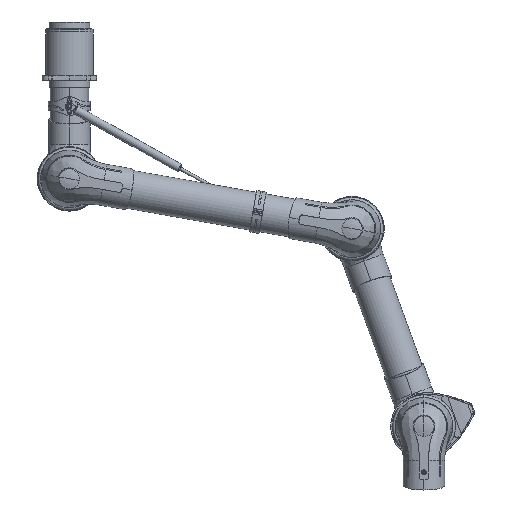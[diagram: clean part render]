
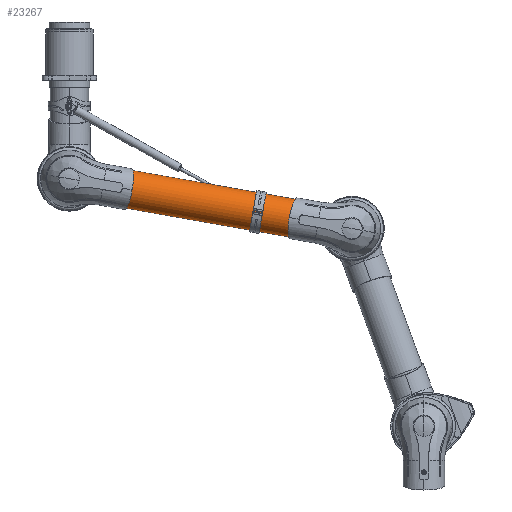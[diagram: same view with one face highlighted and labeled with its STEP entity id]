
A CAD part, top view. The second image highlights one B-rep face of the part: STEP entity #23267.
In plain terms, the highlighted cylindrical face has radius 50 mm (diameter 100 mm), a partial arc.
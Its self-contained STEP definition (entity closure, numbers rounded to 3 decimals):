
#23180=CARTESIAN_POINT('',(0.,0.,0.));
#23181=DIRECTION('',(1.,0.,0.));
#23182=DIRECTION('',(0.,1.,0.));
#23183=AXIS2_PLACEMENT_3D('',#23180,#23181,#23182);
#23188=DIRECTION('',(-1.,0.,0.));
#23189=VECTOR('',#23188,570.);
#23190=CARTESIAN_POINT('',(0.,50.,0.));
#23191=LINE('',#23190,#23189);
#23195=DIRECTION('',(-1.,0.,0.));
#23196=VECTOR('',#23195,570.);
#23197=CARTESIAN_POINT('',(0.,-50.,0.));
#23198=LINE('',#23197,#23196);
#23218=CARTESIAN_POINT('',(-570.,0.,0.));
#23219=DIRECTION('',(1.,0.,0.));
#23220=DIRECTION('',(0.,1.,0.));
#23221=AXIS2_PLACEMENT_3D('',#23218,#23219,#23220);
#23226=CARTESIAN_POINT('',(0.,50.,0.));
#23227=CARTESIAN_POINT('',(-570.,50.,0.));
#23228=VERTEX_POINT('',#23226);
#23229=VERTEX_POINT('',#23227);
#23230=CARTESIAN_POINT('',(0.,-50.,0.));
#23231=CARTESIAN_POINT('',(-570.,-50.,0.));
#23232=VERTEX_POINT('',#23230);
#23233=VERTEX_POINT('',#23231);
#23253=CARTESIAN_POINT('',(-598.5,0.,0.));
#23254=DIRECTION('',(1.,0.,0.));
#23255=DIRECTION('',(0.,-1.,0.));
#23256=AXIS2_PLACEMENT_3D('',#23253,#23254,#23255);
#23257=CYLINDRICAL_SURFACE('',#23256,50.);
#23259=ORIENTED_EDGE('',*,*,#23258,.F.);
#23260=ORIENTED_EDGE('',*,*,#23239,.T.);
#23262=ORIENTED_EDGE('',*,*,#23261,.T.);
#23264=ORIENTED_EDGE('',*,*,#23263,.F.);
#23265=EDGE_LOOP('',(#23259,#23260,#23262,#23264));
#23266=FACE_OUTER_BOUND('',#23265,.F.);
#23184=CIRCLE('',#23183,50.);
#23222=CIRCLE('',#23221,50.);
#23239=EDGE_CURVE('',#23228,#23232,#23184,.T.);
#23258=EDGE_CURVE('',#23228,#23229,#23191,.T.);
#23261=EDGE_CURVE('',#23232,#23233,#23198,.T.);
#23263=EDGE_CURVE('',#23229,#23233,#23222,.T.);
#23267=ADVANCED_FACE('',(#23266),#23257,.T.);
